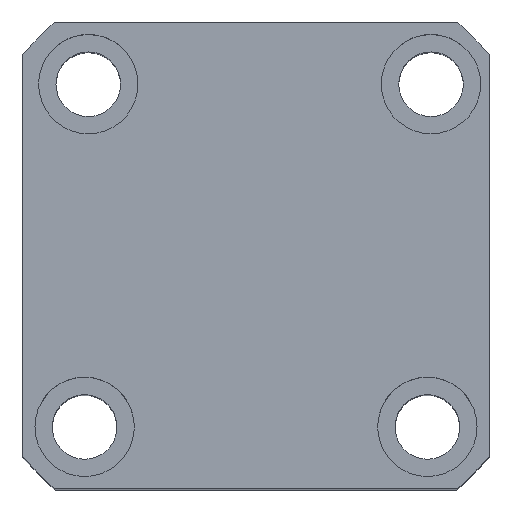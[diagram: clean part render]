
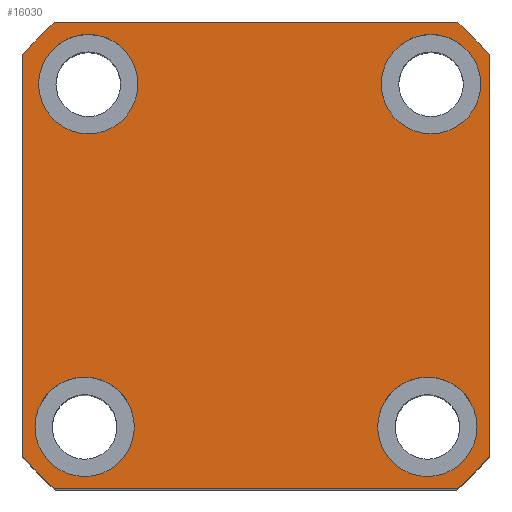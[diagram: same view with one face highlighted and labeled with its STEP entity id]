
A CAD part, top view. The second image highlights one B-rep face of the part: STEP entity #16030.
In plain terms, the highlighted planar face has unit normal (0, 0, 1) as drawn and (0, 0, -1) by its records, which use the part's own axes.
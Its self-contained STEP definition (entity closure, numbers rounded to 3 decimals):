
#166 = VERTEX_POINT ( 'NONE', #6080 ) ;
#351 = FACE_BOUND ( 'NONE', #3261, .T. ) ;
#374 = CIRCLE ( 'NONE', #18316, 10. ) ;
#437 = DIRECTION ( 'NONE',  ( 0., 0., -1. ) ) ;
#604 = AXIS2_PLACEMENT_3D ( 'NONE', #3138, #15367, #4855 ) ;
#854 = EDGE_CURVE ( 'NONE', #11460, #8358, #12537, .T. ) ;
#1005 = VECTOR ( 'NONE', #16536, 1000. ) ;
#1036 = VERTEX_POINT ( 'NONE', #8050 ) ;
#1416 = CARTESIAN_POINT ( 'NONE',  ( -34.5, 34.5, 0. ) ) ;
#1544 = CARTESIAN_POINT ( 'NONE',  ( -40.435, -47., 0. ) ) ;
#1586 = ORIENTED_EDGE ( 'NONE', *, *, #2377, .F. ) ;
#1634 = EDGE_CURVE ( 'NONE', #15768, #9025, #22462, .T. ) ;
#1668 = CARTESIAN_POINT ( 'NONE',  ( -33.77, -34.5, 0. ) ) ;
#2216 = VERTEX_POINT ( 'NONE', #3960 ) ;
#2377 = EDGE_CURVE ( 'NONE', #1036, #8198, #18670, .T. ) ;
#2458 = EDGE_LOOP ( 'NONE', ( #15208, #2906 ) ) ;
#2707 = CARTESIAN_POINT ( 'NONE',  ( 47., 40.435, 0. ) ) ;
#2891 = VERTEX_POINT ( 'NONE', #7671 ) ;
#2906 = ORIENTED_EDGE ( 'NONE', *, *, #12393, .F. ) ;
#2974 = EDGE_CURVE ( 'NONE', #9025, #3163, #14917, .T. ) ;
#2979 = EDGE_LOOP ( 'NONE', ( #5060, #1586 ) ) ;
#3135 = DIRECTION ( 'NONE',  ( -1., 0., 0. ) ) ;
#3138 = CARTESIAN_POINT ( 'NONE',  ( 0., 0., 0. ) ) ;
#3163 = VERTEX_POINT ( 'NONE', #11719 ) ;
#3261 = EDGE_LOOP ( 'NONE', ( #11488, #20631 ) ) ;
#3380 = DIRECTION ( 'NONE',  ( -1., 0., 0. ) ) ;
#3583 = CARTESIAN_POINT ( 'NONE',  ( -47., 40.435, 0. ) ) ;
#3827 = DIRECTION ( 'NONE',  ( 1., 0., 0. ) ) ;
#3906 = DIRECTION ( 'NONE',  ( 0., 0., 1. ) ) ;
#3960 = CARTESIAN_POINT ( 'NONE',  ( -44.5, 34.5, 0. ) ) ;
#3973 = EDGE_CURVE ( 'NONE', #20528, #15768, #13567, .T. ) ;
#3978 = CARTESIAN_POINT ( 'NONE',  ( 0., 0., 0. ) ) ;
#4047 = EDGE_LOOP ( 'NONE', ( #18225, #10093, #6470, #7594, #12876, #17965, #4493, #18967 ) ) ;
#4068 = CIRCLE ( 'NONE', #10384, 62. ) ;
#4098 = DIRECTION ( 'NONE',  ( 0., 0., 1. ) ) ;
#4285 = CARTESIAN_POINT ( 'NONE',  ( -47., -47., 0. ) ) ;
#4298 = DIRECTION ( 'NONE',  ( 0., 1., 0. ) ) ;
#4343 = FACE_OUTER_BOUND ( 'NONE', #4047, .T. ) ;
#4364 = CARTESIAN_POINT ( 'NONE',  ( -33.77, -34.5, 0. ) ) ;
#4447 = CIRCLE ( 'NONE', #12643, 10. ) ;
#4493 = ORIENTED_EDGE ( 'NONE', *, *, #12958, .F. ) ;
#4715 = VECTOR ( 'NONE', #11172, 1000. ) ;
#4855 = DIRECTION ( 'NONE',  ( 1., 0., 0. ) ) ;
#4859 = AXIS2_PLACEMENT_3D ( 'NONE', #4934, #15440, #20633 ) ;
#4871 = FACE_BOUND ( 'NONE', #2458, .T. ) ;
#4927 = EDGE_CURVE ( 'NONE', #8358, #11460, #4447, .T. ) ;
#4934 = CARTESIAN_POINT ( 'NONE',  ( 0., 0., 0. ) ) ;
#4988 = VERTEX_POINT ( 'NONE', #12562 ) ;
#5060 = ORIENTED_EDGE ( 'NONE', *, *, #14743, .F. ) ;
#5320 = DIRECTION ( 'NONE',  ( -1., 0., 0. ) ) ;
#5397 = DIRECTION ( 'NONE',  ( 0., 0., -1. ) ) ;
#5440 = DIRECTION ( 'NONE',  ( 0., 0., -1. ) ) ;
#5511 = DIRECTION ( 'NONE',  ( -1., 0., 0. ) ) ;
#5565 = EDGE_CURVE ( 'NONE', #2216, #21474, #18633, .T. ) ;
#6080 = CARTESIAN_POINT ( 'NONE',  ( 40.435, 47., 0. ) ) ;
#6470 = ORIENTED_EDGE ( 'NONE', *, *, #17151, .F. ) ;
#6540 = DIRECTION ( 'NONE',  ( 0., 0., -1. ) ) ;
#6947 = DIRECTION ( 'NONE',  ( 0., 0., -1. ) ) ;
#7011 = CARTESIAN_POINT ( 'NONE',  ( 34.5, 34.5, 0. ) ) ;
#7120 = CARTESIAN_POINT ( 'NONE',  ( -47., 47., 0. ) ) ;
#7506 = AXIS2_PLACEMENT_3D ( 'NONE', #14628, #4098, #16343 ) ;
#7594 = ORIENTED_EDGE ( 'NONE', *, *, #2974, .F. ) ;
#7671 = CARTESIAN_POINT ( 'NONE',  ( -40.435, 47., 0. ) ) ;
#8050 = CARTESIAN_POINT ( 'NONE',  ( 44.5, 34.5, 0. ) ) ;
#8198 = VERTEX_POINT ( 'NONE', #15515 ) ;
#8358 = VERTEX_POINT ( 'NONE', #10684 ) ;
#9025 = VERTEX_POINT ( 'NONE', #1544 ) ;
#9286 = EDGE_LOOP ( 'NONE', ( #17647, #9500 ) ) ;
#9355 = AXIS2_PLACEMENT_3D ( 'NONE', #3978, #3906, #3827 ) ;
#9382 = DIRECTION ( 'NONE',  ( 0., 0., 1. ) ) ;
#9453 = AXIS2_PLACEMENT_3D ( 'NONE', #10889, #437, #12664 ) ;
#9500 = ORIENTED_EDGE ( 'NONE', *, *, #4927, .F. ) ;
#9635 = DIRECTION ( 'NONE',  ( 0., 0., -1. ) ) ;
#9933 = VECTOR ( 'NONE', #12492, 1000. ) ;
#9989 = EDGE_CURVE ( 'NONE', #166, #2891, #19124, .T. ) ;
#10093 = ORIENTED_EDGE ( 'NONE', *, *, #17844, .F. ) ;
#10384 = AXIS2_PLACEMENT_3D ( 'NONE', #19756, #9382, #21494 ) ;
#10684 = CARTESIAN_POINT ( 'NONE',  ( -23.77, -34.5, 0. ) ) ;
#10889 = CARTESIAN_POINT ( 'NONE',  ( -34.5, 34.5, 0. ) ) ;
#11172 = DIRECTION ( 'NONE',  ( 0., -1., 0. ) ) ;
#11317 = AXIS2_PLACEMENT_3D ( 'NONE', #7011, #5397, #5320 ) ;
#11460 = VERTEX_POINT ( 'NONE', #14339 ) ;
#11488 = ORIENTED_EDGE ( 'NONE', *, *, #5565, .F. ) ;
#11538 = VERTEX_POINT ( 'NONE', #14184 ) ;
#11719 = CARTESIAN_POINT ( 'NONE',  ( 40.435, -47., 0. ) ) ;
#12134 = CIRCLE ( 'NONE', #19026, 10. ) ;
#12393 = EDGE_CURVE ( 'NONE', #11538, #18688, #18067, .T. ) ;
#12492 = DIRECTION ( 'NONE',  ( -1., 0., 0. ) ) ;
#12537 = CIRCLE ( 'NONE', #19495, 10. ) ;
#12562 = CARTESIAN_POINT ( 'NONE',  ( 47., -40.435, 0. ) ) ;
#12643 = AXIS2_PLACEMENT_3D ( 'NONE', #1668, #13896, #3380 ) ;
#12664 = DIRECTION ( 'NONE',  ( -1., 0., 0. ) ) ;
#12876 = ORIENTED_EDGE ( 'NONE', *, *, #1634, .F. ) ;
#12958 = EDGE_CURVE ( 'NONE', #2891, #20528, #18320, .T. ) ;
#13567 = LINE ( 'NONE', #21479, #4715 ) ;
#13576 = EDGE_CURVE ( 'NONE', #21474, #2216, #19658, .T. ) ;
#13653 = DIRECTION ( 'NONE',  ( 0., 0., -1. ) ) ;
#13709 = FACE_BOUND ( 'NONE', #2979, .T. ) ;
#13896 = DIRECTION ( 'NONE',  ( 0., 0., -1. ) ) ;
#14184 = CARTESIAN_POINT ( 'NONE',  ( 45.23, -34.5, 0. ) ) ;
#14257 = CARTESIAN_POINT ( 'NONE',  ( -24.5, 34.5, 0. ) ) ;
#14339 = CARTESIAN_POINT ( 'NONE',  ( -43.77, -34.5, 0. ) ) ;
#14450 = EDGE_CURVE ( 'NONE', #18688, #11538, #374, .T. ) ;
#14574 = LINE ( 'NONE', #16547, #15082 ) ;
#14628 = CARTESIAN_POINT ( 'NONE',  ( 0., 0., 0. ) ) ;
#14743 = EDGE_CURVE ( 'NONE', #8198, #1036, #12134, .T. ) ;
#14917 = LINE ( 'NONE', #4285, #1005 ) ;
#14990 = AXIS2_PLACEMENT_3D ( 'NONE', #17027, #6540, #18737 ) ;
#15082 = VECTOR ( 'NONE', #4298, 1000. ) ;
#15208 = ORIENTED_EDGE ( 'NONE', *, *, #14450, .F. ) ;
#15283 = CIRCLE ( 'NONE', #604, 62. ) ;
#15367 = DIRECTION ( 'NONE',  ( 0., 0., 1. ) ) ;
#15440 = DIRECTION ( 'NONE',  ( 0., 0., 1. ) ) ;
#15515 = CARTESIAN_POINT ( 'NONE',  ( 24.5, 34.5, 0. ) ) ;
#15768 = VERTEX_POINT ( 'NONE', #18174 ) ;
#16030 = ADVANCED_FACE ( 'NONE', ( #18282, #4871, #13709, #351, #4343 ), #18896, .F. ) ;
#16343 = DIRECTION ( 'NONE',  ( 1., 0., 0. ) ) ;
#16536 = DIRECTION ( 'NONE',  ( 1., 0., 0. ) ) ;
#16547 = CARTESIAN_POINT ( 'NONE',  ( 47., 47., 0. ) ) ;
#16801 = AXIS2_PLACEMENT_3D ( 'NONE', #1416, #13653, #3135 ) ;
#16858 = EDGE_CURVE ( 'NONE', #17024, #166, #4068, .T. ) ;
#17024 = VERTEX_POINT ( 'NONE', #2707 ) ;
#17027 = CARTESIAN_POINT ( 'NONE',  ( 35.23, -34.5, 0. ) ) ;
#17151 = EDGE_CURVE ( 'NONE', #3163, #4988, #15283, .T. ) ;
#17417 = CARTESIAN_POINT ( 'NONE',  ( 35.23, -34.5, 0. ) ) ;
#17647 = ORIENTED_EDGE ( 'NONE', *, *, #854, .F. ) ;
#17844 = EDGE_CURVE ( 'NONE', #4988, #17024, #14574, .T. ) ;
#17965 = ORIENTED_EDGE ( 'NONE', *, *, #3973, .F. ) ;
#18067 = CIRCLE ( 'NONE', #14990, 10. ) ;
#18174 = CARTESIAN_POINT ( 'NONE',  ( -47., -40.435, 0. ) ) ;
#18225 = ORIENTED_EDGE ( 'NONE', *, *, #16858, .F. ) ;
#18282 = FACE_BOUND ( 'NONE', #9286, .T. ) ;
#18316 = AXIS2_PLACEMENT_3D ( 'NONE', #17417, #6947, #19137 ) ;
#18320 = CIRCLE ( 'NONE', #7506, 62. ) ;
#18633 = CIRCLE ( 'NONE', #16801, 10. ) ;
#18670 = CIRCLE ( 'NONE', #11317, 10. ) ;
#18688 = VERTEX_POINT ( 'NONE', #20370 ) ;
#18737 = DIRECTION ( 'NONE',  ( -1., 0., 0. ) ) ;
#18896 = PLANE ( 'NONE',  #4859 ) ;
#18967 = ORIENTED_EDGE ( 'NONE', *, *, #9989, .F. ) ;
#19026 = AXIS2_PLACEMENT_3D ( 'NONE', #19999, #9635, #21747 ) ;
#19124 = LINE ( 'NONE', #7120, #9933 ) ;
#19137 = DIRECTION ( 'NONE',  ( -1., 0., 0. ) ) ;
#19495 = AXIS2_PLACEMENT_3D ( 'NONE', #4364, #5440, #5511 ) ;
#19658 = CIRCLE ( 'NONE', #9453, 10. ) ;
#19756 = CARTESIAN_POINT ( 'NONE',  ( 0., 0., 0. ) ) ;
#19999 = CARTESIAN_POINT ( 'NONE',  ( 34.5, 34.5, 0. ) ) ;
#20370 = CARTESIAN_POINT ( 'NONE',  ( 25.23, -34.5, 0. ) ) ;
#20528 = VERTEX_POINT ( 'NONE', #3583 ) ;
#20631 = ORIENTED_EDGE ( 'NONE', *, *, #13576, .F. ) ;
#20633 = DIRECTION ( 'NONE',  ( 1., 0., 0. ) ) ;
#21474 = VERTEX_POINT ( 'NONE', #14257 ) ;
#21479 = CARTESIAN_POINT ( 'NONE',  ( -47., 47., 0. ) ) ;
#21494 = DIRECTION ( 'NONE',  ( 1., 0., 0. ) ) ;
#21747 = DIRECTION ( 'NONE',  ( -1., 0., 0. ) ) ;
#22462 = CIRCLE ( 'NONE', #9355, 62. ) ;
